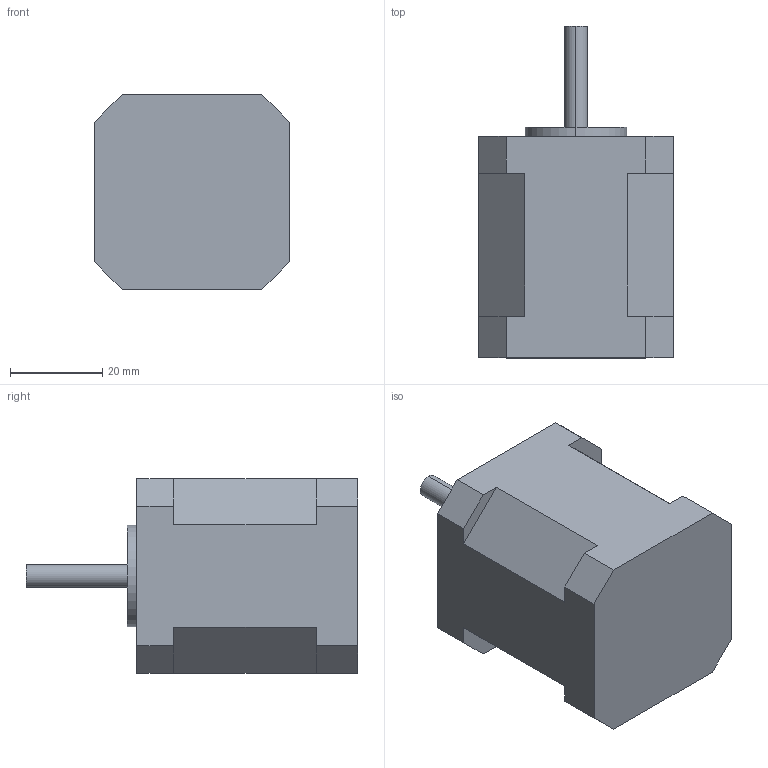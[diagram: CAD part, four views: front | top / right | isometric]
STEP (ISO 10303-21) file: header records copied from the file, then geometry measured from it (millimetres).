
FILE_DESCRIPTION (( 'STEP AP203' ), '1' );
FILE_NAME ('2S42Q-0348.STEP', '2015-05-04T08:53:08', ( 'IT毞諾' ), ( 'iTianKong.com' ), 'SwSTEP 2.0', 'SolidWorks 2008', '' );
FILE_SCHEMA (( 'CONFIG_CONTROL_DESIGN' ));
Length unit declared in the file: millimetre
Products named in the file (1): 2S42Q-0348
Bounding box: 42.3 x 72 x 42.3 mm (x, y, z)
Volume: 79560.9 mm3; surface area: 11475.3 mm2
Topology: 1 solids, 1 shells, 48 faces, 124 edges, 76 vertices
Faces by surface type: plane 28, cylinder 12, cone 8
Entity records: 1469 total; most frequent: CARTESIAN_POINT 241, DIRECTION 238, ORIENTED_EDGE 232, EDGE_CURVE 116, VECTOR 92, LINE 92, VERTEX_POINT 76, AXIS2_PLACEMENT_3D 73
